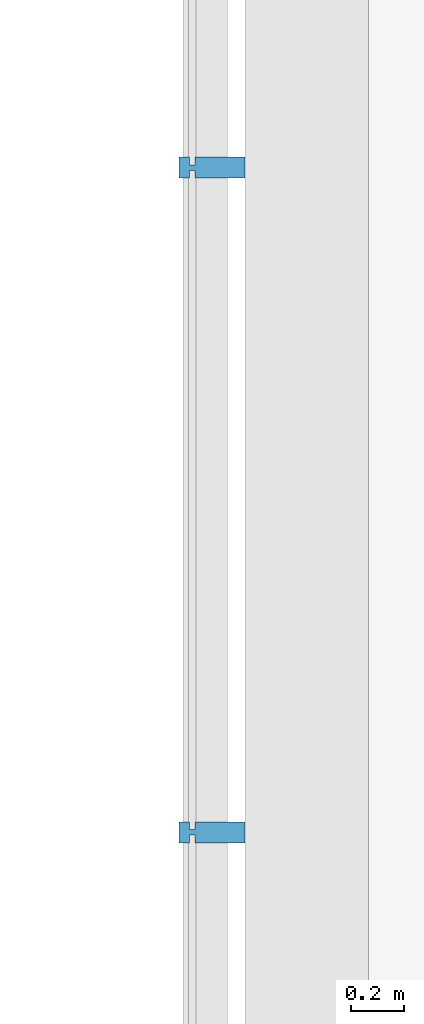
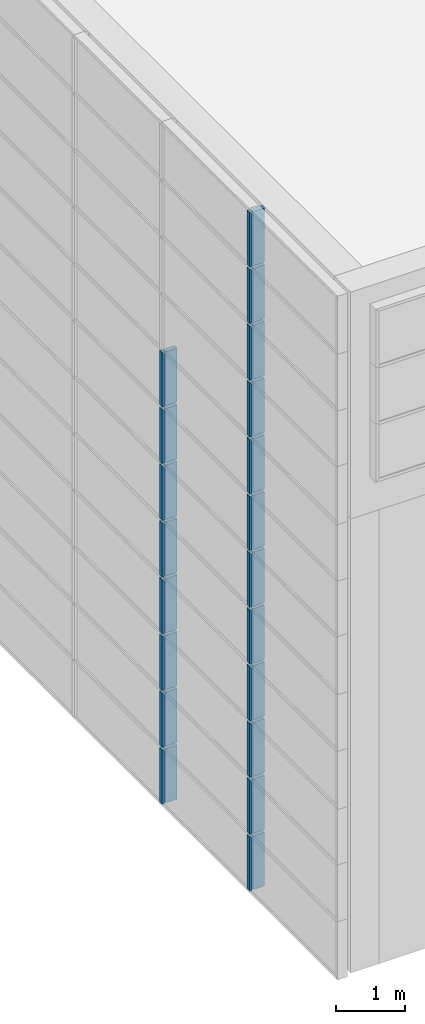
# One storey, part 67 of 105: 20 building element parts, 4 elements without a shape of their own.
"""IFC4 building model written with IfcOpenShell, lengths in millimetres."""

from ifc_helpers import new_model, entity, si_unit, converted_unit, derived_unit, direction, frame, origin_with_axes, place, context, subcontext, project, spatial, triangles, material, element, aggregate, save


model = new_model("IFC4")

# Units and contexts
model_context = context("Model", 3, precision=1e-05, world=origin_with_axes(), true_north=direction((0.0, 1.0)))
body_context = subcontext(model_context, "Body", "Model", "MODEL_VIEW")
ifc_project = project(units=[si_unit("LENGTHUNIT", "METRE", prefix="MILLI"), si_unit("AREAUNIT", "SQUARE_METRE"), si_unit("VOLUMEUNIT", "CUBIC_METRE"), converted_unit("PLANEANGLEUNIT", "DEGREE", entity("IfcLengthMeasure", 0.017453), si_unit("PLANEANGLEUNIT", "RADIAN"), dimensions=[0, 0, 0, 0, 0, 0, 0]), si_unit("SOLIDANGLEUNIT", "STERADIAN"), si_unit("MASSUNIT", "GRAM"), si_unit("TIMEUNIT", "SECOND"), si_unit("THERMODYNAMICTEMPERATUREUNIT", "DEGREE_CELSIUS"), si_unit("LUMINOUSINTENSITYUNIT", "LUMEN"), si_unit("POWERUNIT", "WATT"), derived_unit("THERMALTRANSMITTANCEUNIT", [(si_unit("POWERUNIT", "WATT"), 1), (si_unit("THERMODYNAMICTEMPERATUREUNIT", "KELVIN"), -1), (si_unit("AREAUNIT", "SQUARE_METRE"), -1)])], contexts=[model_context])

# Site, building, storey
site_placement = place(None, origin_with_axes())
site = spatial("IfcSite", under=ifc_project, at=site_placement, Name="Default Site", CompositionType="ELEMENT")
building_placement = place(site_placement, origin_with_axes())
building = spatial("IfcBuilding", under=site, at=building_placement, Name="Default Building", CompositionType="ELEMENT")
storey_placement = place(building_placement, origin_with_axes())
storey = spatial("IfcBuildingStorey", under=building, at=storey_placement, Name="OG - Story", CompositionType="ELEMENT", Elevation=0.0)

# Curtain wall, building element parts
curtain_wall_1_placement = place(storey_placement, origin_with_axes())
curtain_wall_1 = element("IfcCurtainWall", 1, at=curtain_wall_1_placement, inside=storey, Name="Fassade-003", PredefinedType="NOTDEFINED")
ifc_material = material(Name="Blech")
building_element_part_1_placement = place(curtain_wall_1_placement, frame((31551.391327, -51326.104944, 0.0), z_axis=(0.0, 0.0, 1.0), x_axis=(1.0, 0.0, 0.0)))
building_element_part_1 = element("IfcBuildingElementPart", 2, at=building_element_part_1_placement, material=ifc_material, Name="Blech", PredefinedType="NOTDEFINED", context=body_context, shape_type="Tessellation", body=[
    triangles([(200.0, 1223.158, 975.0), (10.0, 1223.158, 975.0), (200.0, 1303.158, 975.0), (10.0, 1253.158, 975.0), (10.0, 1273.158, 975.0), (-9.999, 1253.158, 975.0), (-9.999, 1273.158, 975.0), (-9.999, 1303.158, 975.0), (-9.999, 1223.158, 975.0), (-49.999, 1223.158, 975.0), (-49.999, 1303.158, 975.0), (10.0, 1303.158, 975.0), (10.0, 1273.158, 25.0), (-9.999, 1273.158, 25.0), (-9.999, 1303.158, 25.0), (-49.999, 1303.158, 25.0), (-49.999, 1223.158, 25.0), (-9.999, 1223.158, 25.0), (-9.999, 1253.158, 25.0), (10.0, 1253.158, 25.0), (10.0, 1223.158, 25.0), (200.0, 1223.158, 25.0), (200.0, 1303.158, 25.0), (10.0, 1303.158, 25.0)], [[1, 2, 3], [3, 2, 4], [3, 4, 5], [5, 4, 6], [5, 6, 7], [8, 9, 10], [8, 10, 11], [3, 5, 12], [5, 13, 14], [5, 14, 7], [7, 14, 15], [7, 15, 8], [15, 16, 11], [15, 11, 8], [10, 11, 16], [10, 16, 17], [18, 9, 10], [18, 10, 17], [9, 18, 19], [9, 19, 6], [4, 6, 19], [4, 19, 20], [2, 4, 20], [2, 20, 21], [2, 21, 22], [2, 22, 1], [3, 1, 22], [3, 22, 23], [12, 3, 23], [12, 23, 24], [12, 24, 13], [12, 13, 5], [23, 24, 22], [22, 24, 13], [22, 13, 20], [20, 13, 14], [20, 14, 19], [18, 15, 16], [18, 16, 17], [22, 20, 21]], closed=False),
])
building_element_part_2_placement = place(curtain_wall_1_placement, frame((31551.391327, -51326.104944, 0.0), z_axis=(0.0, 0.0, 1.0), x_axis=(1.0, 0.0, 0.0)))
building_element_part_2 = element("IfcBuildingElementPart", 3, at=building_element_part_2_placement, material=ifc_material, Name="Blech", PredefinedType="NOTDEFINED", context=body_context, shape_type="Tessellation", body=[
    triangles([(200.0, 3749.474, 975.0), (10.0, 3749.474, 975.0), (200.0, 3829.474, 975.0), (10.0, 3779.474, 975.0), (10.0, 3799.474, 975.0), (-9.999, 3779.474, 975.0), (-9.999, 3799.474, 975.0), (-9.999, 3829.474, 975.0), (-9.999, 3749.474, 975.0), (-49.999, 3749.474, 975.0), (-49.999, 3829.474, 975.0), (10.0, 3829.474, 975.0), (10.0, 3799.474, 25.0), (-9.999, 3799.474, 25.0), (-9.999, 3829.474, 25.0), (-49.999, 3829.474, 25.0), (-49.999, 3749.474, 25.0), (-9.999, 3749.474, 25.0), (-9.999, 3779.474, 25.0), (10.0, 3779.474, 25.0), (10.0, 3749.474, 25.0), (200.0, 3749.474, 25.0), (200.0, 3829.474, 25.0), (10.0, 3829.474, 25.0)], [[1, 2, 3], [3, 2, 4], [3, 4, 5], [5, 4, 6], [5, 6, 7], [8, 9, 10], [8, 10, 11], [3, 5, 12], [5, 13, 14], [5, 14, 7], [7, 14, 15], [7, 15, 8], [15, 16, 11], [15, 11, 8], [10, 11, 16], [10, 16, 17], [18, 9, 10], [18, 10, 17], [9, 18, 19], [9, 19, 6], [4, 6, 19], [4, 19, 20], [2, 4, 20], [2, 20, 21], [2, 21, 22], [2, 22, 1], [3, 1, 22], [3, 22, 23], [12, 3, 23], [12, 23, 24], [12, 24, 13], [12, 13, 5], [23, 24, 22], [22, 24, 13], [22, 13, 20], [20, 13, 14], [20, 14, 19], [18, 15, 16], [18, 16, 17], [22, 20, 21]], closed=False),
])
building_element_part_3_placement = place(curtain_wall_1_placement, frame((31551.391327, -51326.104944, 0.0), z_axis=(0.0, 0.0, 1.0), x_axis=(1.0, 0.0, 0.0)))
building_element_part_3 = element("IfcBuildingElementPart", 4, at=building_element_part_3_placement, material=ifc_material, Name="Blech", PredefinedType="NOTDEFINED", context=body_context, shape_type="Tessellation", body=[
    triangles([(200.0, 1223.158, 1975.0), (10.0, 1223.158, 1975.0), (200.0, 1303.158, 1975.0), (10.0, 1253.158, 1975.0), (10.0, 1273.158, 1975.0), (-9.999, 1253.158, 1975.0), (-9.999, 1273.158, 1975.0), (-9.999, 1303.158, 1975.0), (-9.999, 1223.158, 1975.0), (-49.999, 1223.158, 1975.0), (-49.999, 1303.158, 1975.0), (10.0, 1303.158, 1975.0), (10.0, 1273.158, 1025.0), (-9.999, 1273.158, 1025.0), (-9.999, 1303.158, 1025.0), (-49.999, 1303.158, 1025.0), (-49.999, 1223.158, 1025.0), (-9.999, 1223.158, 1025.0), (-9.999, 1253.158, 1025.0), (10.0, 1253.158, 1025.0), (10.0, 1223.158, 1025.0), (200.0, 1223.158, 1025.0), (200.0, 1303.158, 1025.0), (10.0, 1303.158, 1025.0)], [[1, 2, 3], [3, 2, 4], [3, 4, 5], [5, 4, 6], [5, 6, 7], [8, 9, 10], [8, 10, 11], [3, 5, 12], [5, 13, 14], [5, 14, 7], [7, 14, 15], [7, 15, 8], [15, 16, 11], [15, 11, 8], [10, 11, 16], [10, 16, 17], [18, 9, 10], [18, 10, 17], [9, 18, 19], [9, 19, 6], [4, 6, 19], [4, 19, 20], [2, 4, 20], [2, 20, 21], [2, 21, 22], [2, 22, 1], [3, 1, 22], [3, 22, 23], [12, 3, 23], [12, 23, 24], [12, 24, 13], [12, 13, 5], [23, 24, 22], [22, 24, 13], [22, 13, 20], [20, 13, 14], [20, 14, 19], [18, 15, 16], [18, 16, 17], [22, 20, 21]], closed=False),
])
building_element_part_4_placement = place(curtain_wall_1_placement, frame((31551.391327, -51326.104944, 0.0), z_axis=(0.0, 0.0, 1.0), x_axis=(1.0, 0.0, 0.0)))
building_element_part_4 = element("IfcBuildingElementPart", 5, at=building_element_part_4_placement, material=ifc_material, Name="Blech", PredefinedType="NOTDEFINED", context=body_context, shape_type="Tessellation", body=[
    triangles([(200.0, 3749.474, 1975.0), (10.0, 3749.474, 1975.0), (200.0, 3829.474, 1975.0), (10.0, 3779.474, 1975.0), (10.0, 3799.474, 1975.0), (-9.999, 3779.474, 1975.0), (-9.999, 3799.474, 1975.0), (-9.999, 3829.474, 1975.0), (-9.999, 3749.474, 1975.0), (-49.999, 3749.474, 1975.0), (-49.999, 3829.474, 1975.0), (10.0, 3829.474, 1975.0), (10.0, 3799.474, 1025.0), (-9.999, 3799.474, 1025.0), (-9.999, 3829.474, 1025.0), (-49.999, 3829.474, 1025.0), (-49.999, 3749.474, 1025.0), (-9.999, 3749.474, 1025.0), (-9.999, 3779.474, 1025.0), (10.0, 3779.474, 1025.0), (10.0, 3749.474, 1025.0), (200.0, 3749.474, 1025.0), (200.0, 3829.474, 1025.0), (10.0, 3829.474, 1025.0)], [[1, 2, 3], [3, 2, 4], [3, 4, 5], [5, 4, 6], [5, 6, 7], [8, 9, 10], [8, 10, 11], [3, 5, 12], [5, 13, 14], [5, 14, 7], [7, 14, 15], [7, 15, 8], [15, 16, 11], [15, 11, 8], [10, 11, 16], [10, 16, 17], [18, 9, 10], [18, 10, 17], [9, 18, 19], [9, 19, 6], [4, 6, 19], [4, 19, 20], [2, 4, 20], [2, 20, 21], [2, 21, 22], [2, 22, 1], [3, 1, 22], [3, 22, 23], [12, 3, 23], [12, 23, 24], [12, 24, 13], [12, 13, 5], [23, 24, 22], [22, 24, 13], [22, 13, 20], [20, 13, 14], [20, 14, 19], [18, 15, 16], [18, 16, 17], [22, 20, 21]], closed=False),
])
building_element_part_5_placement = place(curtain_wall_1_placement, frame((31551.391327, -51326.104944, 0.0), z_axis=(0.0, 0.0, 1.0), x_axis=(1.0, 0.0, 0.0)))
building_element_part_5 = element("IfcBuildingElementPart", 6, at=building_element_part_5_placement, material=ifc_material, Name="Blech", PredefinedType="NOTDEFINED", context=body_context, shape_type="Tessellation", body=[
    triangles([(200.0, 1223.158, 2975.0), (10.0, 1223.158, 2975.0), (200.0, 1303.158, 2975.0), (10.0, 1253.158, 2975.0), (10.0, 1273.158, 2975.0), (-9.999, 1253.158, 2975.0), (-9.999, 1273.158, 2975.0), (-9.999, 1303.158, 2975.0), (-9.999, 1223.158, 2975.0), (-49.999, 1223.158, 2975.0), (-49.999, 1303.158, 2975.0), (10.0, 1303.158, 2975.0), (10.0, 1273.158, 2025.0), (-9.999, 1273.158, 2025.0), (-9.999, 1303.158, 2025.0), (-49.999, 1303.158, 2025.0), (-49.999, 1223.158, 2025.0), (-9.999, 1223.158, 2025.0), (-9.999, 1253.158, 2025.0), (10.0, 1253.158, 2025.0), (10.0, 1223.158, 2025.0), (200.0, 1223.158, 2025.0), (200.0, 1303.158, 2025.0), (10.0, 1303.158, 2025.0)], [[1, 2, 3], [3, 2, 4], [3, 4, 5], [5, 4, 6], [5, 6, 7], [8, 9, 10], [8, 10, 11], [3, 5, 12], [5, 13, 14], [5, 14, 7], [7, 14, 15], [7, 15, 8], [15, 16, 11], [15, 11, 8], [10, 11, 16], [10, 16, 17], [18, 9, 10], [18, 10, 17], [9, 18, 19], [9, 19, 6], [4, 6, 19], [4, 19, 20], [2, 4, 20], [2, 20, 21], [2, 21, 22], [2, 22, 1], [3, 1, 22], [3, 22, 23], [12, 3, 23], [12, 23, 24], [12, 24, 13], [12, 13, 5], [23, 24, 22], [22, 24, 13], [22, 13, 20], [20, 13, 14], [20, 14, 19], [18, 15, 16], [18, 16, 17], [22, 20, 21]], closed=False),
])
building_element_part_6_placement = place(curtain_wall_1_placement, frame((31551.391327, -51326.104944, 0.0), z_axis=(0.0, 0.0, 1.0), x_axis=(1.0, 0.0, 0.0)))
building_element_part_6 = element("IfcBuildingElementPart", 7, at=building_element_part_6_placement, material=ifc_material, Name="Blech", PredefinedType="NOTDEFINED", context=body_context, shape_type="Tessellation", body=[
    triangles([(200.0, 3749.474, 2975.0), (10.0, 3749.474, 2975.0), (200.0, 3829.474, 2975.0), (10.0, 3779.474, 2975.0), (10.0, 3799.474, 2975.0), (-9.999, 3779.474, 2975.0), (-9.999, 3799.474, 2975.0), (-9.999, 3829.474, 2975.0), (-9.999, 3749.474, 2975.0), (-49.999, 3749.474, 2975.0), (-49.999, 3829.474, 2975.0), (10.0, 3829.474, 2975.0), (10.0, 3799.474, 2025.0), (-9.999, 3799.474, 2025.0), (-9.999, 3829.474, 2025.0), (-49.999, 3829.474, 2025.0), (-49.999, 3749.474, 2025.0), (-9.999, 3749.474, 2025.0), (-9.999, 3779.474, 2025.0), (10.0, 3779.474, 2025.0), (10.0, 3749.474, 2025.0), (200.0, 3749.474, 2025.0), (200.0, 3829.474, 2025.0), (10.0, 3829.474, 2025.0)], [[1, 2, 3], [3, 2, 4], [3, 4, 5], [5, 4, 6], [5, 6, 7], [8, 9, 10], [8, 10, 11], [3, 5, 12], [5, 13, 14], [5, 14, 7], [7, 14, 15], [7, 15, 8], [15, 16, 11], [15, 11, 8], [10, 11, 16], [10, 16, 17], [18, 9, 10], [18, 10, 17], [9, 18, 19], [9, 19, 6], [4, 6, 19], [4, 19, 20], [2, 4, 20], [2, 20, 21], [2, 21, 22], [2, 22, 1], [3, 1, 22], [3, 22, 23], [12, 3, 23], [12, 23, 24], [12, 24, 13], [12, 13, 5], [23, 24, 22], [22, 24, 13], [22, 13, 20], [20, 13, 14], [20, 14, 19], [18, 15, 16], [18, 16, 17], [22, 20, 21]], closed=False),
])
aggregate(curtain_wall_1, [building_element_part_1, building_element_part_2, building_element_part_3, building_element_part_4, building_element_part_5, building_element_part_6])

curtain_wall_2_placement = place(storey_placement, origin_with_axes())
curtain_wall_2 = element("IfcCurtainWall", 8, at=curtain_wall_2_placement, inside=storey, Name="Fassade-003", PredefinedType="NOTDEFINED")
building_element_part_7_placement = place(curtain_wall_2_placement, frame((31551.391327, -51326.104944, 3000.0), z_axis=(0.0, 0.0, 1.0), x_axis=(1.0, 0.0, 0.0)))
building_element_part_7 = element("IfcBuildingElementPart", 9, at=building_element_part_7_placement, material=ifc_material, Name="Blech", PredefinedType="NOTDEFINED", context=body_context, shape_type="Tessellation", body=[
    triangles([(200.0, 1223.158, 975.0), (10.0, 1223.158, 975.0), (200.0, 1303.158, 975.0), (10.0, 1253.158, 975.0), (10.0, 1273.158, 975.0), (-9.999, 1253.158, 975.0), (-9.999, 1273.158, 975.0), (-9.999, 1303.158, 975.0), (-9.999, 1223.158, 975.0), (-49.999, 1223.158, 975.0), (-49.999, 1303.158, 975.0), (10.0, 1303.158, 975.0), (10.0, 1273.158, 25.0), (-9.999, 1273.158, 25.0), (-9.999, 1303.158, 25.0), (-49.999, 1303.158, 25.0), (-49.999, 1223.158, 25.0), (-9.999, 1223.158, 25.0), (-9.999, 1253.158, 25.0), (10.0, 1253.158, 25.0), (10.0, 1223.158, 25.0), (200.0, 1223.158, 25.0), (200.0, 1303.158, 25.0), (10.0, 1303.158, 25.0)], [[1, 2, 3], [3, 2, 4], [3, 4, 5], [5, 4, 6], [5, 6, 7], [8, 9, 10], [8, 10, 11], [3, 5, 12], [5, 13, 14], [5, 14, 7], [7, 14, 15], [7, 15, 8], [15, 16, 11], [15, 11, 8], [10, 11, 16], [10, 16, 17], [18, 9, 10], [18, 10, 17], [9, 18, 19], [9, 19, 6], [4, 6, 19], [4, 19, 20], [2, 4, 20], [2, 20, 21], [2, 21, 22], [2, 22, 1], [3, 1, 22], [3, 22, 23], [12, 3, 23], [12, 23, 24], [12, 24, 13], [12, 13, 5], [23, 24, 22], [22, 24, 13], [22, 13, 20], [20, 13, 14], [20, 14, 19], [18, 15, 16], [18, 16, 17], [22, 20, 21]], closed=False),
])
building_element_part_8_placement = place(curtain_wall_2_placement, frame((31551.391327, -51326.104944, 3000.0), z_axis=(0.0, 0.0, 1.0), x_axis=(1.0, 0.0, 0.0)))
building_element_part_8 = element("IfcBuildingElementPart", 10, at=building_element_part_8_placement, material=ifc_material, Name="Blech", PredefinedType="NOTDEFINED", context=body_context, shape_type="Tessellation", body=[
    triangles([(200.0, 3749.474, 975.0), (10.0, 3749.474, 975.0), (200.0, 3829.474, 975.0), (10.0, 3779.474, 975.0), (10.0, 3799.474, 975.0), (-9.999, 3779.474, 975.0), (-9.999, 3799.474, 975.0), (-9.999, 3829.474, 975.0), (-9.999, 3749.474, 975.0), (-49.999, 3749.474, 975.0), (-49.999, 3829.474, 975.0), (10.0, 3829.474, 975.0), (10.0, 3799.474, 25.0), (-9.999, 3799.474, 25.0), (-9.999, 3829.474, 25.0), (-49.999, 3829.474, 25.0), (-49.999, 3749.474, 25.0), (-9.999, 3749.474, 25.0), (-9.999, 3779.474, 25.0), (10.0, 3779.474, 25.0), (10.0, 3749.474, 25.0), (200.0, 3749.474, 25.0), (200.0, 3829.474, 25.0), (10.0, 3829.474, 25.0)], [[1, 2, 3], [3, 2, 4], [3, 4, 5], [5, 4, 6], [5, 6, 7], [8, 9, 10], [8, 10, 11], [3, 5, 12], [5, 13, 14], [5, 14, 7], [7, 14, 15], [7, 15, 8], [15, 16, 11], [15, 11, 8], [10, 11, 16], [10, 16, 17], [18, 9, 10], [18, 10, 17], [9, 18, 19], [9, 19, 6], [4, 6, 19], [4, 19, 20], [2, 4, 20], [2, 20, 21], [2, 21, 22], [2, 22, 1], [3, 1, 22], [3, 22, 23], [12, 3, 23], [12, 23, 24], [12, 24, 13], [12, 13, 5], [23, 24, 22], [22, 24, 13], [22, 13, 20], [20, 13, 14], [20, 14, 19], [18, 15, 16], [18, 16, 17], [22, 20, 21]], closed=False),
])
building_element_part_9_placement = place(curtain_wall_2_placement, frame((31551.391327, -51326.104944, 3000.0), z_axis=(0.0, 0.0, 1.0), x_axis=(1.0, 0.0, 0.0)))
building_element_part_9 = element("IfcBuildingElementPart", 11, at=building_element_part_9_placement, material=ifc_material, Name="Blech", PredefinedType="NOTDEFINED", context=body_context, shape_type="Tessellation", body=[
    triangles([(200.0, 1223.158, 1975.0), (10.0, 1223.158, 1975.0), (200.0, 1303.158, 1975.0), (10.0, 1253.158, 1975.0), (10.0, 1273.158, 1975.0), (-9.999, 1253.158, 1975.0), (-9.999, 1273.158, 1975.0), (-9.999, 1303.158, 1975.0), (-9.999, 1223.158, 1975.0), (-49.999, 1223.158, 1975.0), (-49.999, 1303.158, 1975.0), (10.0, 1303.158, 1975.0), (10.0, 1273.158, 1025.0), (-9.999, 1273.158, 1025.0), (-9.999, 1303.158, 1025.0), (-49.999, 1303.158, 1025.0), (-49.999, 1223.158, 1025.0), (-9.999, 1223.158, 1025.0), (-9.999, 1253.158, 1025.0), (10.0, 1253.158, 1025.0), (10.0, 1223.158, 1025.0), (200.0, 1223.158, 1025.0), (200.0, 1303.158, 1025.0), (10.0, 1303.158, 1025.0)], [[1, 2, 3], [3, 2, 4], [3, 4, 5], [5, 4, 6], [5, 6, 7], [8, 9, 10], [8, 10, 11], [3, 5, 12], [5, 13, 14], [5, 14, 7], [7, 14, 15], [7, 15, 8], [15, 16, 11], [15, 11, 8], [10, 11, 16], [10, 16, 17], [18, 9, 10], [18, 10, 17], [9, 18, 19], [9, 19, 6], [4, 6, 19], [4, 19, 20], [2, 4, 20], [2, 20, 21], [2, 21, 22], [2, 22, 1], [3, 1, 22], [3, 22, 23], [12, 3, 23], [12, 23, 24], [12, 24, 13], [12, 13, 5], [23, 24, 22], [22, 24, 13], [22, 13, 20], [20, 13, 14], [20, 14, 19], [18, 15, 16], [18, 16, 17], [22, 20, 21]], closed=False),
])
building_element_part_10_placement = place(curtain_wall_2_placement, frame((31551.391327, -51326.104944, 3000.0), z_axis=(0.0, 0.0, 1.0), x_axis=(1.0, 0.0, 0.0)))
building_element_part_10 = element("IfcBuildingElementPart", 12, at=building_element_part_10_placement, material=ifc_material, Name="Blech", PredefinedType="NOTDEFINED", context=body_context, shape_type="Tessellation", body=[
    triangles([(200.0, 3749.474, 1975.0), (10.0, 3749.474, 1975.0), (200.0, 3829.474, 1975.0), (10.0, 3779.474, 1975.0), (10.0, 3799.474, 1975.0), (-9.999, 3779.474, 1975.0), (-9.999, 3799.474, 1975.0), (-9.999, 3829.474, 1975.0), (-9.999, 3749.474, 1975.0), (-49.999, 3749.474, 1975.0), (-49.999, 3829.474, 1975.0), (10.0, 3829.474, 1975.0), (10.0, 3799.474, 1025.0), (-9.999, 3799.474, 1025.0), (-9.999, 3829.474, 1025.0), (-49.999, 3829.474, 1025.0), (-49.999, 3749.474, 1025.0), (-9.999, 3749.474, 1025.0), (-9.999, 3779.474, 1025.0), (10.0, 3779.474, 1025.0), (10.0, 3749.474, 1025.0), (200.0, 3749.474, 1025.0), (200.0, 3829.474, 1025.0), (10.0, 3829.474, 1025.0)], [[1, 2, 3], [3, 2, 4], [3, 4, 5], [5, 4, 6], [5, 6, 7], [8, 9, 10], [8, 10, 11], [3, 5, 12], [5, 13, 14], [5, 14, 7], [7, 14, 15], [7, 15, 8], [15, 16, 11], [15, 11, 8], [10, 11, 16], [10, 16, 17], [18, 9, 10], [18, 10, 17], [9, 18, 19], [9, 19, 6], [4, 6, 19], [4, 19, 20], [2, 4, 20], [2, 20, 21], [2, 21, 22], [2, 22, 1], [3, 1, 22], [3, 22, 23], [12, 3, 23], [12, 23, 24], [12, 24, 13], [12, 13, 5], [23, 24, 22], [22, 24, 13], [22, 13, 20], [20, 13, 14], [20, 14, 19], [18, 15, 16], [18, 16, 17], [22, 20, 21]], closed=False),
])
building_element_part_11_placement = place(curtain_wall_2_placement, frame((31551.391327, -51326.104944, 3000.0), z_axis=(0.0, 0.0, 1.0), x_axis=(1.0, 0.0, 0.0)))
building_element_part_11 = element("IfcBuildingElementPart", 13, at=building_element_part_11_placement, material=ifc_material, Name="Blech", PredefinedType="NOTDEFINED", context=body_context, shape_type="Tessellation", body=[
    triangles([(200.0, 1223.158, 2975.0), (10.0, 1223.158, 2975.0), (200.0, 1303.158, 2975.0), (10.0, 1253.158, 2975.0), (10.0, 1273.158, 2975.0), (-9.999, 1253.158, 2975.0), (-9.999, 1273.158, 2975.0), (-9.999, 1303.158, 2975.0), (-9.999, 1223.158, 2975.0), (-49.999, 1223.158, 2975.0), (-49.999, 1303.158, 2975.0), (10.0, 1303.158, 2975.0), (10.0, 1273.158, 2025.0), (-9.999, 1273.158, 2025.0), (-9.999, 1303.158, 2025.0), (-49.999, 1303.158, 2025.0), (-49.999, 1223.158, 2025.0), (-9.999, 1223.158, 2025.0), (-9.999, 1253.158, 2025.0), (10.0, 1253.158, 2025.0), (10.0, 1223.158, 2025.0), (200.0, 1223.158, 2025.0), (200.0, 1303.158, 2025.0), (10.0, 1303.158, 2025.0)], [[1, 2, 3], [3, 2, 4], [3, 4, 5], [5, 4, 6], [5, 6, 7], [8, 9, 10], [8, 10, 11], [3, 5, 12], [5, 13, 14], [5, 14, 7], [7, 14, 15], [7, 15, 8], [15, 16, 11], [15, 11, 8], [10, 11, 16], [10, 16, 17], [18, 9, 10], [18, 10, 17], [9, 18, 19], [9, 19, 6], [4, 6, 19], [4, 19, 20], [2, 4, 20], [2, 20, 21], [2, 21, 22], [2, 22, 1], [3, 1, 22], [3, 22, 23], [12, 3, 23], [12, 23, 24], [12, 24, 13], [12, 13, 5], [23, 24, 22], [22, 24, 13], [22, 13, 20], [20, 13, 14], [20, 14, 19], [18, 15, 16], [18, 16, 17], [22, 20, 21]], closed=False),
])
building_element_part_12_placement = place(curtain_wall_2_placement, frame((31551.391327, -51326.104944, 3000.0), z_axis=(0.0, 0.0, 1.0), x_axis=(1.0, 0.0, 0.0)))
building_element_part_12 = element("IfcBuildingElementPart", 14, at=building_element_part_12_placement, material=ifc_material, Name="Blech", PredefinedType="NOTDEFINED", context=body_context, shape_type="Tessellation", body=[
    triangles([(200.0, 3749.474, 2975.0), (10.0, 3749.474, 2975.0), (200.0, 3829.474, 2975.0), (10.0, 3779.474, 2975.0), (10.0, 3799.474, 2975.0), (-9.999, 3779.474, 2975.0), (-9.999, 3799.474, 2975.0), (-9.999, 3829.474, 2975.0), (-9.999, 3749.474, 2975.0), (-49.999, 3749.474, 2975.0), (-49.999, 3829.474, 2975.0), (10.0, 3829.474, 2975.0), (10.0, 3799.474, 2025.0), (-9.999, 3799.474, 2025.0), (-9.999, 3829.474, 2025.0), (-49.999, 3829.474, 2025.0), (-49.999, 3749.474, 2025.0), (-9.999, 3749.474, 2025.0), (-9.999, 3779.474, 2025.0), (10.0, 3779.474, 2025.0), (10.0, 3749.474, 2025.0), (200.0, 3749.474, 2025.0), (200.0, 3829.474, 2025.0), (10.0, 3829.474, 2025.0)], [[1, 2, 3], [3, 2, 4], [3, 4, 5], [5, 4, 6], [5, 6, 7], [8, 9, 10], [8, 10, 11], [3, 5, 12], [5, 13, 14], [5, 14, 7], [7, 14, 15], [7, 15, 8], [15, 16, 11], [15, 11, 8], [10, 11, 16], [10, 16, 17], [18, 9, 10], [18, 10, 17], [9, 18, 19], [9, 19, 6], [4, 6, 19], [4, 19, 20], [2, 4, 20], [2, 20, 21], [2, 21, 22], [2, 22, 1], [3, 1, 22], [3, 22, 23], [12, 3, 23], [12, 23, 24], [12, 24, 13], [12, 13, 5], [23, 24, 22], [22, 24, 13], [22, 13, 20], [20, 13, 14], [20, 14, 19], [18, 15, 16], [18, 16, 17], [22, 20, 21]], closed=False),
])
aggregate(curtain_wall_2, [building_element_part_7, building_element_part_8, building_element_part_9, building_element_part_10, building_element_part_11, building_element_part_12])

curtain_wall_3_placement = place(storey_placement, origin_with_axes())
curtain_wall_3 = element("IfcCurtainWall", 15, at=curtain_wall_3_placement, inside=storey, Name="Fassade-003", PredefinedType="NOTDEFINED")
building_element_part_13_placement = place(curtain_wall_3_placement, frame((31551.391327, -51326.104944, 6000.0), z_axis=(0.0, 0.0, 1.0), x_axis=(1.0, 0.0, 0.0)))
building_element_part_13 = element("IfcBuildingElementPart", 16, at=building_element_part_13_placement, material=ifc_material, Name="Blech", PredefinedType="NOTDEFINED", context=body_context, shape_type="Tessellation", body=[
    triangles([(200.0, 1223.158, 975.0), (10.0, 1223.158, 975.0), (200.0, 1303.158, 975.0), (10.0, 1253.158, 975.0), (10.0, 1273.158, 975.0), (-9.999, 1253.158, 975.0), (-9.999, 1273.158, 975.0), (-9.999, 1303.158, 975.0), (-9.999, 1223.158, 975.0), (-49.999, 1223.158, 975.0), (-49.999, 1303.158, 975.0), (10.0, 1303.158, 975.0), (10.0, 1273.158, 25.0), (-9.999, 1273.158, 25.0), (-9.999, 1303.158, 25.0), (-49.999, 1303.158, 25.0), (-49.999, 1223.158, 25.0), (-9.999, 1223.158, 25.0), (-9.999, 1253.158, 25.0), (10.0, 1253.158, 25.0), (10.0, 1223.158, 25.0), (200.0, 1223.158, 25.0), (200.0, 1303.158, 25.0), (10.0, 1303.158, 25.0)], [[1, 2, 3], [3, 2, 4], [3, 4, 5], [5, 4, 6], [5, 6, 7], [8, 9, 10], [8, 10, 11], [3, 5, 12], [5, 13, 14], [5, 14, 7], [7, 14, 15], [7, 15, 8], [15, 16, 11], [15, 11, 8], [10, 11, 16], [10, 16, 17], [18, 9, 10], [18, 10, 17], [9, 18, 19], [9, 19, 6], [4, 6, 19], [4, 19, 20], [2, 4, 20], [2, 20, 21], [2, 21, 22], [2, 22, 1], [3, 1, 22], [3, 22, 23], [12, 3, 23], [12, 23, 24], [12, 24, 13], [12, 13, 5], [23, 24, 22], [22, 24, 13], [22, 13, 20], [20, 13, 14], [20, 14, 19], [18, 15, 16], [18, 16, 17], [22, 20, 21]], closed=False),
])
building_element_part_14_placement = place(curtain_wall_3_placement, frame((31551.391327, -51326.104944, 6000.0), z_axis=(0.0, 0.0, 1.0), x_axis=(1.0, 0.0, 0.0)))
building_element_part_14 = element("IfcBuildingElementPart", 17, at=building_element_part_14_placement, material=ifc_material, Name="Blech", PredefinedType="NOTDEFINED", context=body_context, shape_type="Tessellation", body=[
    triangles([(200.0, 3749.474, 975.0), (10.0, 3749.474, 975.0), (200.0, 3829.474, 975.0), (10.0, 3779.474, 975.0), (10.0, 3799.474, 975.0), (-9.999, 3779.474, 975.0), (-9.999, 3799.474, 975.0), (-9.999, 3829.474, 975.0), (-9.999, 3749.474, 975.0), (-49.999, 3749.474, 975.0), (-49.999, 3829.474, 975.0), (10.0, 3829.474, 975.0), (10.0, 3799.474, 25.0), (-9.999, 3799.474, 25.0), (-9.999, 3829.474, 25.0), (-49.999, 3829.474, 25.0), (-49.999, 3749.474, 25.0), (-9.999, 3749.474, 25.0), (-9.999, 3779.474, 25.0), (10.0, 3779.474, 25.0), (10.0, 3749.474, 25.0), (200.0, 3749.474, 25.0), (200.0, 3829.474, 25.0), (10.0, 3829.474, 25.0)], [[1, 2, 3], [3, 2, 4], [3, 4, 5], [5, 4, 6], [5, 6, 7], [8, 9, 10], [8, 10, 11], [3, 5, 12], [5, 13, 14], [5, 14, 7], [7, 14, 15], [7, 15, 8], [15, 16, 11], [15, 11, 8], [10, 11, 16], [10, 16, 17], [18, 9, 10], [18, 10, 17], [9, 18, 19], [9, 19, 6], [4, 6, 19], [4, 19, 20], [2, 4, 20], [2, 20, 21], [2, 21, 22], [2, 22, 1], [3, 1, 22], [3, 22, 23], [12, 3, 23], [12, 23, 24], [12, 24, 13], [12, 13, 5], [23, 24, 22], [22, 24, 13], [22, 13, 20], [20, 13, 14], [20, 14, 19], [18, 15, 16], [18, 16, 17], [22, 20, 21]], closed=False),
])
building_element_part_15_placement = place(curtain_wall_3_placement, frame((31551.391327, -51326.104944, 6000.0), z_axis=(0.0, 0.0, 1.0), x_axis=(1.0, 0.0, 0.0)))
building_element_part_15 = element("IfcBuildingElementPart", 18, at=building_element_part_15_placement, material=ifc_material, Name="Blech", PredefinedType="NOTDEFINED", context=body_context, shape_type="Tessellation", body=[
    triangles([(200.0, 1223.158, 1975.0), (10.0, 1223.158, 1975.0), (200.0, 1303.158, 1975.0), (10.0, 1253.158, 1975.0), (10.0, 1273.158, 1975.0), (-9.999, 1253.158, 1975.0), (-9.999, 1273.158, 1975.0), (-9.999, 1303.158, 1975.0), (-9.999, 1223.158, 1975.0), (-49.999, 1223.158, 1975.0), (-49.999, 1303.158, 1975.0), (10.0, 1303.158, 1975.0), (10.0, 1273.158, 1025.0), (-9.999, 1273.158, 1025.0), (-9.999, 1303.158, 1025.0), (-49.999, 1303.158, 1025.0), (-49.999, 1223.158, 1025.0), (-9.999, 1223.158, 1025.0), (-9.999, 1253.158, 1025.0), (10.0, 1253.158, 1025.0), (10.0, 1223.158, 1025.0), (200.0, 1223.158, 1025.0), (200.0, 1303.158, 1025.0), (10.0, 1303.158, 1025.0)], [[1, 2, 3], [3, 2, 4], [3, 4, 5], [5, 4, 6], [5, 6, 7], [8, 9, 10], [8, 10, 11], [3, 5, 12], [5, 13, 14], [5, 14, 7], [7, 14, 15], [7, 15, 8], [15, 16, 11], [15, 11, 8], [10, 11, 16], [10, 16, 17], [18, 9, 10], [18, 10, 17], [9, 18, 19], [9, 19, 6], [4, 6, 19], [4, 19, 20], [2, 4, 20], [2, 20, 21], [2, 21, 22], [2, 22, 1], [3, 1, 22], [3, 22, 23], [12, 3, 23], [12, 23, 24], [12, 24, 13], [12, 13, 5], [23, 24, 22], [22, 24, 13], [22, 13, 20], [20, 13, 14], [20, 14, 19], [18, 15, 16], [18, 16, 17], [22, 20, 21]], closed=False),
])
building_element_part_16_placement = place(curtain_wall_3_placement, frame((31551.391327, -51326.104944, 6000.0), z_axis=(0.0, 0.0, 1.0), x_axis=(1.0, 0.0, 0.0)))
building_element_part_16 = element("IfcBuildingElementPart", 19, at=building_element_part_16_placement, material=ifc_material, Name="Blech", PredefinedType="NOTDEFINED", context=body_context, shape_type="Tessellation", body=[
    triangles([(200.0, 3749.474, 1975.0), (10.0, 3749.474, 1975.0), (200.0, 3829.474, 1975.0), (10.0, 3779.474, 1975.0), (10.0, 3799.474, 1975.0), (-9.999, 3779.474, 1975.0), (-9.999, 3799.474, 1975.0), (-9.999, 3829.474, 1975.0), (-9.999, 3749.474, 1975.0), (-49.999, 3749.474, 1975.0), (-49.999, 3829.474, 1975.0), (10.0, 3829.474, 1975.0), (10.0, 3799.474, 1025.0), (-9.999, 3799.474, 1025.0), (-9.999, 3829.474, 1025.0), (-49.999, 3829.474, 1025.0), (-49.999, 3749.474, 1025.0), (-9.999, 3749.474, 1025.0), (-9.999, 3779.474, 1025.0), (10.0, 3779.474, 1025.0), (10.0, 3749.474, 1025.0), (200.0, 3749.474, 1025.0), (200.0, 3829.474, 1025.0), (10.0, 3829.474, 1025.0)], [[1, 2, 3], [3, 2, 4], [3, 4, 5], [5, 4, 6], [5, 6, 7], [8, 9, 10], [8, 10, 11], [3, 5, 12], [5, 13, 14], [5, 14, 7], [7, 14, 15], [7, 15, 8], [15, 16, 11], [15, 11, 8], [10, 11, 16], [10, 16, 17], [18, 9, 10], [18, 10, 17], [9, 18, 19], [9, 19, 6], [4, 6, 19], [4, 19, 20], [2, 4, 20], [2, 20, 21], [2, 21, 22], [2, 22, 1], [3, 1, 22], [3, 22, 23], [12, 3, 23], [12, 23, 24], [12, 24, 13], [12, 13, 5], [23, 24, 22], [22, 24, 13], [22, 13, 20], [20, 13, 14], [20, 14, 19], [18, 15, 16], [18, 16, 17], [22, 20, 21]], closed=False),
])
building_element_part_17_placement = place(curtain_wall_3_placement, frame((31551.391327, -51326.104944, 6000.0), z_axis=(0.0, 0.0, 1.0), x_axis=(1.0, 0.0, 0.0)))
building_element_part_17 = element("IfcBuildingElementPart", 20, at=building_element_part_17_placement, material=ifc_material, Name="Blech", PredefinedType="NOTDEFINED", context=body_context, shape_type="Tessellation", body=[
    triangles([(200.0, 1223.158, 2975.0), (10.0, 1223.158, 2975.0), (200.0, 1303.158, 2975.0), (10.0, 1253.158, 2975.0), (10.0, 1273.158, 2975.0), (-9.999, 1253.158, 2975.0), (-9.999, 1273.158, 2975.0), (-9.999, 1303.158, 2975.0), (-9.999, 1223.158, 2975.0), (-49.999, 1223.158, 2975.0), (-49.999, 1303.158, 2975.0), (10.0, 1303.158, 2975.0), (10.0, 1273.158, 2025.0), (-9.999, 1273.158, 2025.0), (-9.999, 1303.158, 2025.0), (-49.999, 1303.158, 2025.0), (-49.999, 1223.158, 2025.0), (-9.999, 1223.158, 2025.0), (-9.999, 1253.158, 2025.0), (10.0, 1253.158, 2025.0), (10.0, 1223.158, 2025.0), (200.0, 1223.158, 2025.0), (200.0, 1303.158, 2025.0), (10.0, 1303.158, 2025.0)], [[1, 2, 3], [3, 2, 4], [3, 4, 5], [5, 4, 6], [5, 6, 7], [8, 9, 10], [8, 10, 11], [3, 5, 12], [5, 13, 14], [5, 14, 7], [7, 14, 15], [7, 15, 8], [15, 16, 11], [15, 11, 8], [10, 11, 16], [10, 16, 17], [18, 9, 10], [18, 10, 17], [9, 18, 19], [9, 19, 6], [4, 6, 19], [4, 19, 20], [2, 4, 20], [2, 20, 21], [2, 21, 22], [2, 22, 1], [3, 1, 22], [3, 22, 23], [12, 3, 23], [12, 23, 24], [12, 24, 13], [12, 13, 5], [23, 24, 22], [22, 24, 13], [22, 13, 20], [20, 13, 14], [20, 14, 19], [18, 15, 16], [18, 16, 17], [22, 20, 21]], closed=False),
])
aggregate(curtain_wall_3, [building_element_part_13, building_element_part_14, building_element_part_15, building_element_part_16, building_element_part_17])

curtain_wall_4_placement = place(storey_placement, origin_with_axes())
curtain_wall_4 = element("IfcCurtainWall", 21, at=curtain_wall_4_placement, inside=storey, Name="Fassade-003", PredefinedType="NOTDEFINED")
building_element_part_18_placement = place(curtain_wall_4_placement, frame((31551.391327, -51326.104944, 9000.0), z_axis=(0.0, 0.0, 1.0), x_axis=(1.0, 0.0, 0.0)))
building_element_part_18 = element("IfcBuildingElementPart", 22, at=building_element_part_18_placement, material=ifc_material, Name="Blech", PredefinedType="NOTDEFINED", context=body_context, shape_type="Tessellation", body=[
    triangles([(200.0, 1223.158, 975.0), (10.0, 1223.158, 975.0), (200.0, 1303.158, 975.0), (10.0, 1253.158, 975.0), (10.0, 1273.158, 975.0), (-9.999, 1253.158, 975.0), (-9.999, 1273.158, 975.0), (-9.999, 1303.158, 975.0), (-9.999, 1223.158, 975.0), (-49.999, 1223.158, 975.0), (-49.999, 1303.158, 975.0), (10.0, 1303.158, 975.0), (10.0, 1273.158, 25.0), (-9.999, 1273.158, 25.0), (-9.999, 1303.158, 25.0), (-49.999, 1303.158, 25.0), (-49.999, 1223.158, 25.0), (-9.999, 1223.158, 25.0), (-9.999, 1253.158, 25.0), (10.0, 1253.158, 25.0), (10.0, 1223.158, 25.0), (200.0, 1223.158, 25.0), (200.0, 1303.158, 25.0), (10.0, 1303.158, 25.0)], [[1, 2, 3], [3, 2, 4], [3, 4, 5], [5, 4, 6], [5, 6, 7], [8, 9, 10], [8, 10, 11], [3, 5, 12], [5, 13, 14], [5, 14, 7], [7, 14, 15], [7, 15, 8], [15, 16, 11], [15, 11, 8], [10, 11, 16], [10, 16, 17], [18, 9, 10], [18, 10, 17], [9, 18, 19], [9, 19, 6], [4, 6, 19], [4, 19, 20], [2, 4, 20], [2, 20, 21], [2, 21, 22], [2, 22, 1], [3, 1, 22], [3, 22, 23], [12, 3, 23], [12, 23, 24], [12, 24, 13], [12, 13, 5], [23, 24, 22], [22, 24, 13], [22, 13, 20], [20, 13, 14], [20, 14, 19], [18, 15, 16], [18, 16, 17], [22, 20, 21]], closed=False),
])
building_element_part_19_placement = place(curtain_wall_4_placement, frame((31551.391327, -51326.104944, 9000.0), z_axis=(0.0, 0.0, 1.0), x_axis=(1.0, 0.0, 0.0)))
building_element_part_19 = element("IfcBuildingElementPart", 23, at=building_element_part_19_placement, material=ifc_material, Name="Blech", PredefinedType="NOTDEFINED", context=body_context, shape_type="Tessellation", body=[
    triangles([(200.0, 1223.158, 1975.0), (10.0, 1223.158, 1975.0), (200.0, 1303.158, 1975.0), (10.0, 1253.158, 1975.0), (10.0, 1273.158, 1975.0), (-9.999, 1253.158, 1975.0), (-9.999, 1273.158, 1975.0), (-9.999, 1303.158, 1975.0), (-9.999, 1223.158, 1975.0), (-49.999, 1223.158, 1975.0), (-49.999, 1303.158, 1975.0), (10.0, 1303.158, 1975.0), (10.0, 1273.158, 1025.0), (-9.999, 1273.158, 1025.0), (-9.999, 1303.158, 1025.0), (-49.999, 1303.158, 1025.0), (-49.999, 1223.158, 1025.0), (-9.999, 1223.158, 1025.0), (-9.999, 1253.158, 1025.0), (10.0, 1253.158, 1025.0), (10.0, 1223.158, 1025.0), (200.0, 1223.158, 1025.0), (200.0, 1303.158, 1025.0), (10.0, 1303.158, 1025.0)], [[1, 2, 3], [3, 2, 4], [3, 4, 5], [5, 4, 6], [5, 6, 7], [8, 9, 10], [8, 10, 11], [3, 5, 12], [5, 13, 14], [5, 14, 7], [7, 14, 15], [7, 15, 8], [15, 16, 11], [15, 11, 8], [10, 11, 16], [10, 16, 17], [18, 9, 10], [18, 10, 17], [9, 18, 19], [9, 19, 6], [4, 6, 19], [4, 19, 20], [2, 4, 20], [2, 20, 21], [2, 21, 22], [2, 22, 1], [3, 1, 22], [3, 22, 23], [12, 3, 23], [12, 23, 24], [12, 24, 13], [12, 13, 5], [23, 24, 22], [22, 24, 13], [22, 13, 20], [20, 13, 14], [20, 14, 19], [18, 15, 16], [18, 16, 17], [22, 20, 21]], closed=False),
])
building_element_part_20_placement = place(curtain_wall_4_placement, frame((31551.391327, -51326.104944, 9000.0), z_axis=(0.0, 0.0, 1.0), x_axis=(1.0, 0.0, 0.0)))
building_element_part_20 = element("IfcBuildingElementPart", 24, at=building_element_part_20_placement, material=ifc_material, Name="Blech", PredefinedType="NOTDEFINED", context=body_context, shape_type="Tessellation", body=[
    triangles([(200.0, 1223.158, 2975.0), (10.0, 1223.158, 2975.0), (200.0, 1303.158, 2975.0), (10.0, 1253.158, 2975.0), (10.0, 1273.158, 2975.0), (-9.999, 1253.158, 2975.0), (-9.999, 1273.158, 2975.0), (-9.999, 1303.158, 2975.0), (-9.999, 1223.158, 2975.0), (-49.999, 1223.158, 2975.0), (-49.999, 1303.158, 2975.0), (10.0, 1303.158, 2975.0), (10.0, 1273.158, 2025.0), (-9.999, 1273.158, 2025.0), (-9.999, 1303.158, 2025.0), (-49.999, 1303.158, 2025.0), (-49.999, 1223.158, 2025.0), (-9.999, 1223.158, 2025.0), (-9.999, 1253.158, 2025.0), (10.0, 1253.158, 2025.0), (10.0, 1223.158, 2025.0), (200.0, 1223.158, 2025.0), (200.0, 1303.158, 2025.0), (10.0, 1303.158, 2025.0)], [[1, 2, 3], [3, 2, 4], [3, 4, 5], [5, 4, 6], [5, 6, 7], [8, 9, 10], [8, 10, 11], [3, 5, 12], [5, 13, 14], [5, 14, 7], [7, 14, 15], [7, 15, 8], [15, 16, 11], [15, 11, 8], [10, 11, 16], [10, 16, 17], [18, 9, 10], [18, 10, 17], [9, 18, 19], [9, 19, 6], [4, 6, 19], [4, 19, 20], [2, 4, 20], [2, 20, 21], [2, 21, 22], [2, 22, 1], [3, 1, 22], [3, 22, 23], [12, 3, 23], [12, 23, 24], [12, 24, 13], [12, 13, 5], [23, 24, 22], [22, 24, 13], [22, 13, 20], [20, 13, 14], [20, 14, 19], [18, 15, 16], [18, 16, 17], [22, 20, 21]], closed=False),
])
aggregate(curtain_wall_4, [building_element_part_18, building_element_part_19, building_element_part_20])

save(model, "model.ifc")
